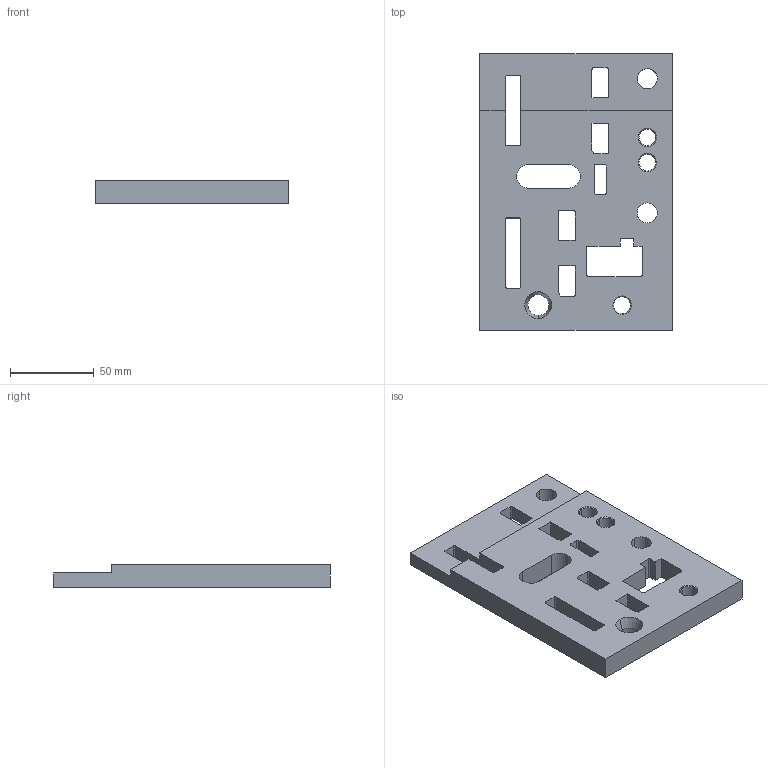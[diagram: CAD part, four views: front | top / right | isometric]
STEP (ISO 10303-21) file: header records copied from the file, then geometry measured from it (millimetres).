
FILE_DESCRIPTION((' '),'2;1');
FILE_NAME( 'Wire EDM Plate.STEP', '2023-02-20T11:49:24', (' '), ('--- Datakit www.datakit.com---'), ' Datakit CrossCadWare V2022.3 Jun 16 2022', 'GO2cam V6.10', ' ');
FILE_SCHEMA(('AUTOMOTIVE_DESIGN { 1 0 10303 214 1 1 1 1 }'));
Length unit declared in the file: millimetre
Products named in the file (1): part
Bounding box: 115 x 165 x 13.6 mm (x, y, z)
Volume: 195641.7 mm3; surface area: 49761.3 mm2
Topology: 1 solids, 1 shells, 93 faces, 274 edges, 182 vertices
Faces by surface type: plane 49, bspline 28, cone 8, cylinder 8
Entity records: 3277 total; most frequent: CARTESIAN_POINT 764, ORIENTED_EDGE 548, DIRECTION 480, EDGE_CURVE 274, VECTOR 188, LINE 188, VERTEX_POINT 182, AXIS2_PLACEMENT_3D 146
